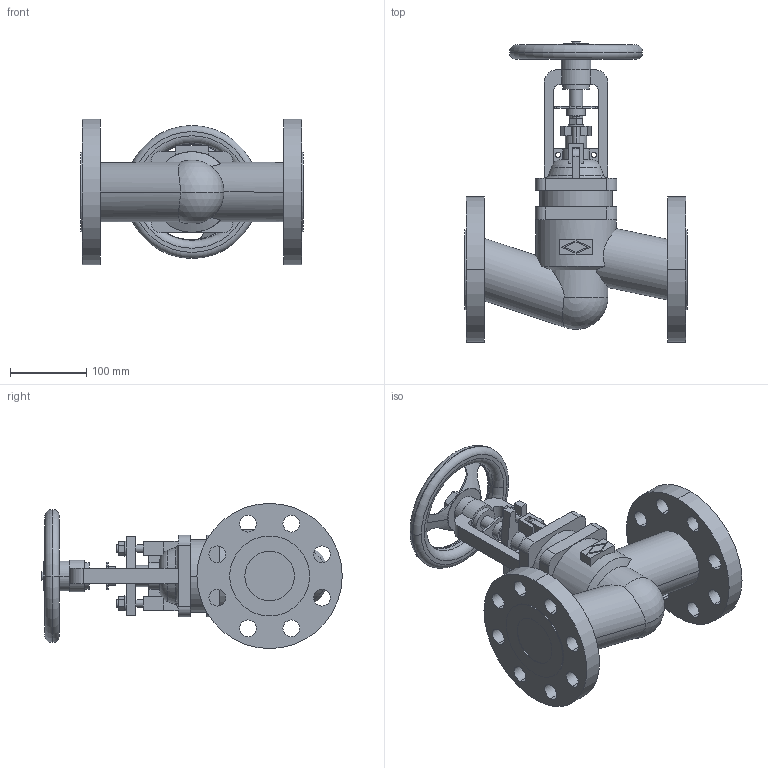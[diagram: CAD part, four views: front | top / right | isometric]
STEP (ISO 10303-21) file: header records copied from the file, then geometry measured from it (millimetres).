
FILE_DESCRIPTION(('OneSpaceDesigner STEP Export'),'2;1');
FILE_NAME('c000004198.stp','2010-04-30T 8:37:33',(''),(''),'OneSpace Designer STEP processor for AP214 (Solid Model)','OneSpace Modeling 15.50B 03-Nov-2007 (C) CoCreate Software GmbH','');
FILE_SCHEMA(('AUTOMOTIVE_DESIGN { 1 0 10303 214 1 1 1 1 }'));
Length unit declared in the file: millimetre
Products named in the file (1): 1
Bounding box: 292 x 395.1 x 191 mm (x, y, z)
Volume: 4036670.1 mm3; surface area: 373146 mm2
Topology: 1 solids, 1 shells, 304 faces, 833 edges, 550 vertices
Faces by surface type: plane 139, cylinder 129, torus 22, cone 12, sphere 2
Entity records: 12581 total; most frequent: CARTESIAN_POINT 2793, ORIENTED_EDGE 1662, DIRECTION 1338, EDGE_CURVE 831, VERTEX_POINT 550, AXIS2_PLACEMENT_3D 461, VECTOR 416, LINE 416
